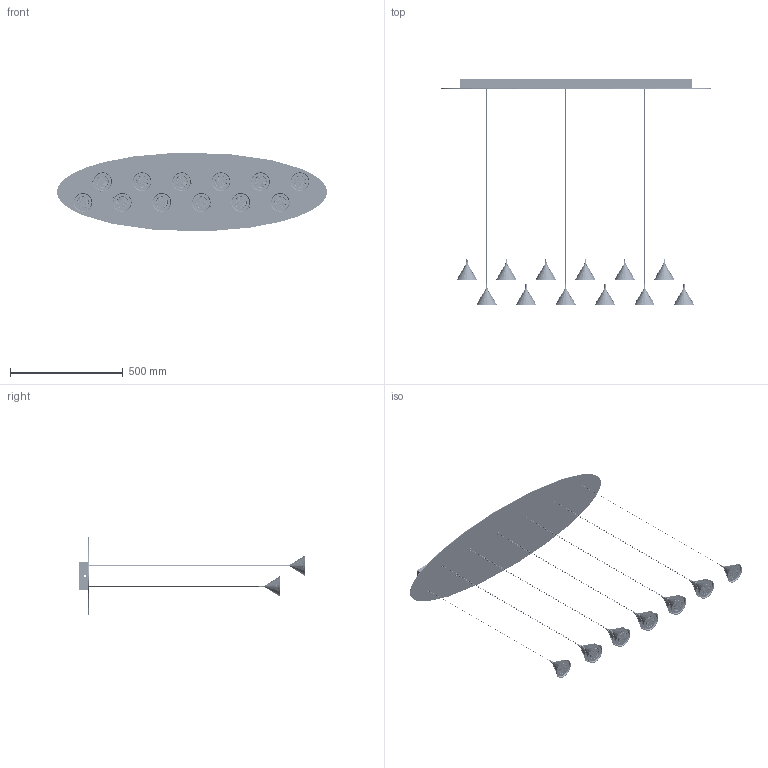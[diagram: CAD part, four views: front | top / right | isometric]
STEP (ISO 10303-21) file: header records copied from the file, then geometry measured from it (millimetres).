
FILE_DESCRIPTION (( 'STEP AP203' ), '1' );
FILE_NAME ('SPJM12E-PER 3D.STEP', '2025-06-30T07:24:57', ( '' ), ( '' ), 'SwSTEP 2.0', 'SolidWorks 2024', '' );
FILE_SCHEMA (( 'CONFIG_CONTROL_DESIGN' ));
Length unit declared in the file: millimetre
Products named in the file (37): WSH0T11611---------; PENDJEWEMO32XXXX-PER 3D; WSR1TLL01CRCEW38L2; CAVOJEWELM02MTY; WSMCROB10--19-0141_WSMCROB10--19-0141; WSMCDAA-10C30-0141_WSMCDAA-10C30-0141; WSASS-000000056-00-PER 3D; WSM2G1522-FR------; ASSIEME HOLDER+LENTE LEDLINK; WSCM2C0182-0100-00; WSCP2E0002-1404-00; WSMCROB10--14-0141_WSMCROB10--14-0141; WSCM2C0183-0100-00; SPJM12E-PER 3D; WSCM2A0067-0700-00
Assembly tree (96 placements, depth 4):
  SPJM12E-PER 3D
    WSASS-000000056-00-PER 3D
      WSCM2C0182-0100-00
      WSCM2C0183-0100-00
      WSM2G1522-FR------  x12
      WSMCROB10--14-0141_WSMCROB10--14-0141  x7
      WSH0T11611---------  x2
      WSMCROB10--19-0141_WSMCROB10--19-0141  x5
      WSMCDAA-10C30-0141_WSMCDAA-10C30-0141  x6
    PENDJEWEMO32XXXX-PER 3D
      WSCM2A0067-0700-00
      WSCP2E0002-1404-00
      ASSIEME HOLDER+LENTE LEDLINK
        WSR1TLL01CRCEW38L2
      CAVOJEWELM02MTY
    PENDJEWEMO32XXXX-PER 3D
      WSCM2A0067-0700-00
      WSCP2E0002-1404-00
      ASSIEME HOLDER+LENTE LEDLINK
        WSR1TLL01CRCEW38L2
      CAVOJEWELM02MTY
    PENDJEWEMO32XXXX-PER 3D
      WSCM2A0067-0700-00
      WSCP2E0002-1404-00
      ASSIEME HOLDER+LENTE LEDLINK
        WSR1TLL01CRCEW38L2
      CAVOJEWELM02MTY
    PENDJEWEMO32XXXX-PER 3D
      WSCM2A0067-0700-00
      WSCP2E0002-1404-00
      ASSIEME HOLDER+LENTE LEDLINK
        WSR1TLL01CRCEW38L2
      CAVOJEWELM02MTY
    PENDJEWEMO32XXXX-PER 3D
      WSCM2A0067-0700-00
      WSCP2E0002-1404-00
      ASSIEME HOLDER+LENTE LEDLINK
        WSR1TLL01CRCEW38L2
      CAVOJEWELM02MTY
    PENDJEWEMO32XXXX-PER 3D
      WSCM2A0067-0700-00
      WSCP2E0002-1404-00
      ASSIEME HOLDER+LENTE LEDLINK
        WSR1TLL01CRCEW38L2
      CAVOJEWELM02MTY
    PENDJEWEMO32XXXX-PER 3D
      WSCM2A0067-0700-00
      WSCP2E0002-1404-00
      ASSIEME HOLDER+LENTE LEDLINK
        WSR1TLL01CRCEW38L2
      CAVOJEWELM02MTY
    PENDJEWEMO32XXXX-PER 3D
      WSCM2A0067-0700-00
      WSCP2E0002-1404-00
      ASSIEME HOLDER+LENTE LEDLINK
        WSR1TLL01CRCEW38L2
      CAVOJEWELM02MTY
    PENDJEWEMO32XXXX-PER 3D
      WSCM2A0067-0700-00
      WSCP2E0002-1404-00
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Bounding box: 1196 x 999.9 x 347.16 mm (x, y, z)
Volume: 2147336.9 mm3; surface area: 1548703.8 mm2
Topology: 82 solids, 82 shells, 10306 faces, 26254 edges, 15560 vertices
Faces by surface type: cylinder 4864, bspline 2950, plane 1340, cone 984, sphere 120, torus 48
Entity records: 63197 total; most frequent: CARTESIAN_POINT 31363, ORIENTED_EDGE 6006, DIRECTION 4701, EDGE_CURVE 3003, AXIS2_PLACEMENT_3D 1915, VERTEX_POINT 1864, EDGE_LOOP 1305, B_SPLINE_CURVE_WITH_KNOTS 1233
